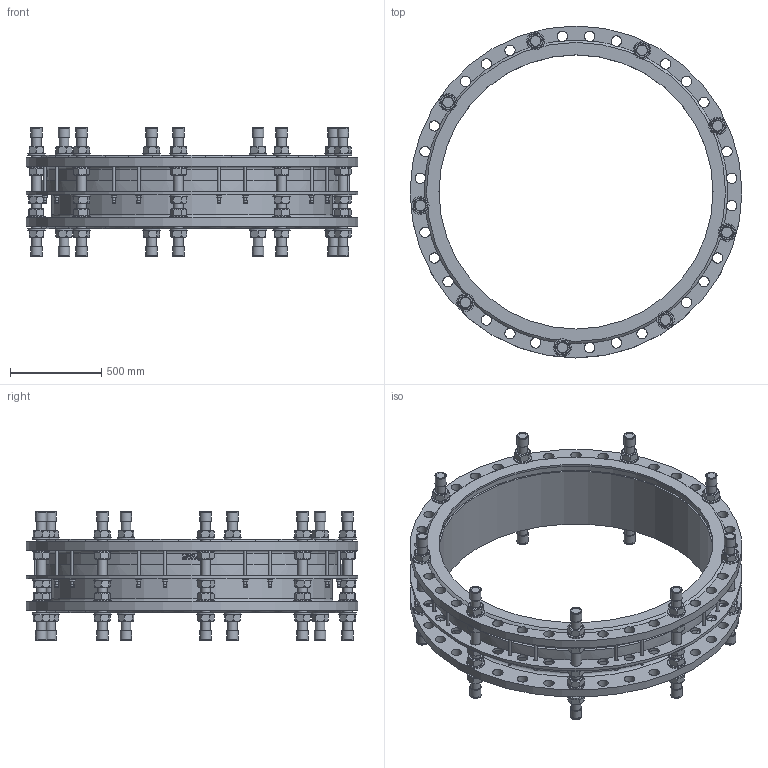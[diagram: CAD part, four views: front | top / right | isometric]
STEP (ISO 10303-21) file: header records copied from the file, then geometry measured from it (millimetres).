
FILE_DESCRIPTION(('STEP AP242'), '1');
FILE_NAME('Ìîíòàæíàÿ âñòàâêà', '', ('UNSPECIFIED'), ('UNSPECIFIED'), 'C3D Converter', 'C3D Toolkit', '');
FILE_SCHEMA(('AP242_MANAGED_MODEL_BASED_3D_ENGINEERING_MIM_LF { 1 0 10303 442 1 1 4 }'));
Length unit declared in the file: millimetre
Products named in the file (13): ШМ.М16.310; ШМ.М16.206
Assembly tree (193 placements, depth 2):
  (unnamed)
    (unnamed)
    (unnamed)
    (unnamed)
    (unnamed)
    (unnamed)  x45
    (unnamed)  x45
    ШМ.М16.310  x9
    (unnamed)  x18
    (unnamed)  x18
    (unnamed)  x18
    ШМ.М16.206  x18
    (unnamed)  x18
Bounding box: 1816 x 1816 x 710.4 mm (x, y, z)
Volume: 152434011.2 mm3; surface area: 14852485.2 mm2
Topology: 197 solids, 197 shells, 1672 faces, 3717 edges, 2392 vertices
Faces by surface type: plane 857, cylinder 454, cone 312, torus 38, extrusion 11
Full cylindrical faces by diameter (mm): 16 x72, 17 x18, 18 x18, 19.2 x18, 30 x18, 33.221 x1, 52 x72, 54 x45, 57 x108, 62.4 x18, 96 x45, 1500 x2, 1534 x2, 1551 x2, 1585 x1, 1602 x1, 1619 x1, 1653 x1, 1816 x3
Entity records: 25959 total; most frequent: CARTESIAN_POINT 11572, DIRECTION 2256, ORIENTED_EDGE 1634, AXIS2_PLACEMENT_3D 1091, EDGE_CURVE 817, EDGE_LOOP 731, VERTEX_POINT 656, CIRCLE 602
